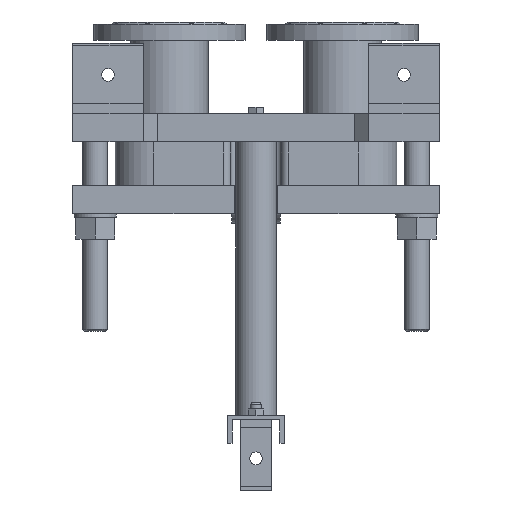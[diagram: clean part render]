
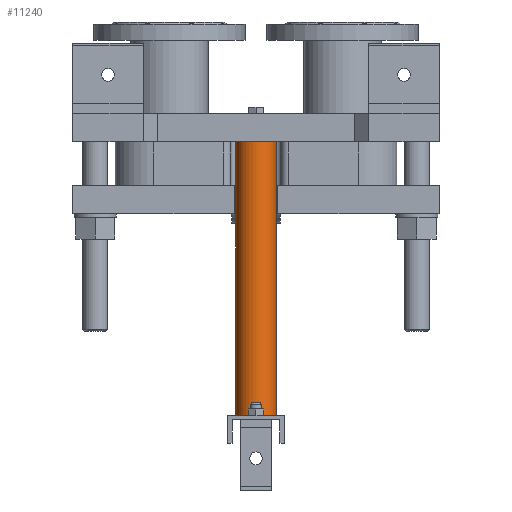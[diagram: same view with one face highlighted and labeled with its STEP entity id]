
A CAD part, front view. The second image highlights one B-rep face of the part: STEP entity #11240.
In plain terms, the highlighted cylindrical face has radius 28.5 mm (diameter 57 mm), a full revolution.
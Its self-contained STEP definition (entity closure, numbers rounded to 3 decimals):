
#781=LINE('',#22043,#1754);
#1754=VECTOR('',#14569,28.5);
#2333=CYLINDRICAL_SURFACE('',#12263,28.5);
#2995=FACE_OUTER_BOUND('',#3777,.T.);
#3777=EDGE_LOOP('',(#9013,#9014,#9015,#9016));
#4462=CIRCLE('',#12264,28.5);
#4463=CIRCLE('',#12265,28.5);
#5286=VERTEX_POINT('',#22040);
#5287=VERTEX_POINT('',#22042);
#6596=EDGE_CURVE('',#5286,#5286,#4462,.T.);
#6597=EDGE_CURVE('',#5286,#5287,#781,.T.);
#6598=EDGE_CURVE('',#5287,#5287,#4463,.T.);
#9013=ORIENTED_EDGE('',*,*,#6596,.F.);
#9014=ORIENTED_EDGE('',*,*,#6597,.T.);
#9015=ORIENTED_EDGE('',*,*,#6598,.T.);
#9016=ORIENTED_EDGE('',*,*,#6597,.F.);
#11240=ADVANCED_FACE('',(#2995),#2333,.T.);
#12263=AXIS2_PLACEMENT_3D('',#22039,#14565,#14566);
#12264=AXIS2_PLACEMENT_3D('',#22041,#14567,#14568);
#12265=AXIS2_PLACEMENT_3D('',#22044,#14570,#14571);
#14565=DIRECTION('center_axis',(0.,0.,
-1.));
#14566=DIRECTION('ref_axis',(-1.,0.,0.));
#14567=DIRECTION('center_axis',(0.,0.,
-1.));
#14568=DIRECTION('ref_axis',(-1.,0.,0.));
#14569=DIRECTION('',(0.,0.,1.));
#14570=DIRECTION('center_axis',(0.,0.,
-1.));
#14571=DIRECTION('ref_axis',(-1.,0.,0.));
#22039=CARTESIAN_POINT('Origin',(0.,215.,0.));
#22040=CARTESIAN_POINT('',(28.5,215.,-388.));
#22041=CARTESIAN_POINT('Origin',(0.,215.,-388.));
#22042=CARTESIAN_POINT('',(28.5,215.,0.));
#22043=CARTESIAN_POINT('',(28.5,215.,0.));
#22044=CARTESIAN_POINT('Origin',(0.,215.,0.));
